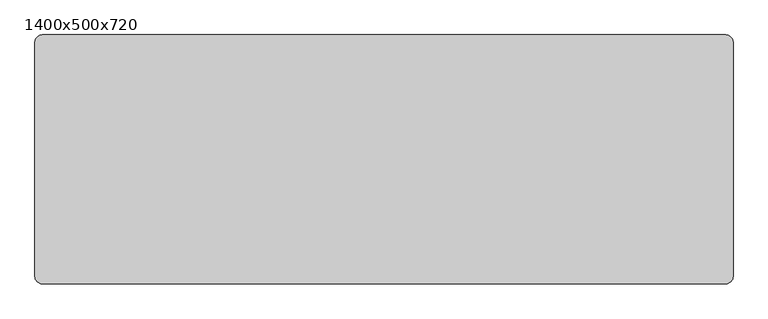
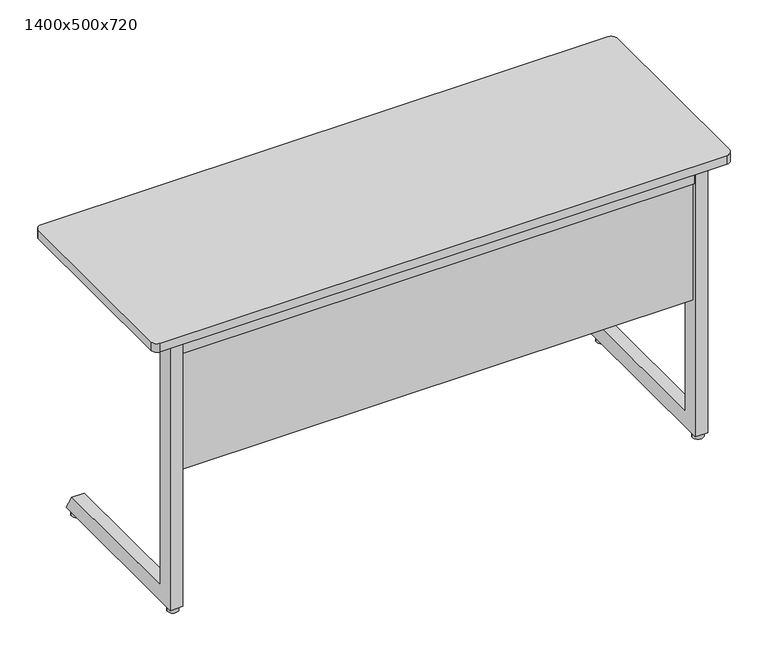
"""IFC4 building model written with IfcOpenShell, lengths in millimetres: furniture geometry, Trivia Light : 1400x500x720."""

from ifc_helpers import new_model, si_unit, point, frame, frame_2d, origin, origin_with_axes, place, context, project, spatial, polyline, circle_curve, trimmed, segment, composite_curve, outline, extrude, source, transform, mapped, element, save


def furniture_1400x500x720_7847da70(model_context):
    return source(origin(), model_context, "Body", "SweptSolid", [
        extrude(outline(polyline([(434.5100173, 698.0), (419.9996059, 666.4981092), (54.0, 666.4977978), (54.0, 698.0), (434.5100173, 698.0)])), frame((-564.7535601, 0.0, 0.0), z_axis=(1.0, 0.0, 0.0), x_axis=(0.0, 1.0, 0.0)), (0.0, 0.0, 1.0), 30.0),
        extrude(outline(polyline([(693.7997437, -567.7502136), (670.730957, -567.7502136), (670.730957, -599.8065042), (675.0394353, -611.6439509), (672.2203574, -612.6700113), (667.730957, -600.3354852), (667.730957, -564.7502136), (693.7997437, -564.7502136), (693.7997437, -567.7502136)])), frame((0.0, 215.0, 0.0), z_axis=(0.0, 1.0, 0.0), x_axis=(0.0, 0.0, 1.0)), (0.0, 0.0, 1.0), 30.0),
        extrude(outline(polyline([(693.7997437, 567.7535601), (693.7997437, 564.7535601), (667.730957, 564.7535601), (667.730957, 600.3388316), (672.2203574, 612.6733577), (675.0394353, 611.6472973), (670.730957, 599.8098507), (670.730957, 567.7535601), (693.7997437, 567.7535601)])), frame((0.0, 215.0, 0.0), z_axis=(0.0, 1.0, 0.0), x_axis=(0.0, 0.0, 1.0)), (0.0, 0.0, 1.0), 30.0),
        extrude(outline(composite_curve([segment(trimmed(circle_curve(frame_2d((-635.0, 35.0)), 13.0), [point((-648.0, 35.0))], [point((-622.0, 35.0))], False, "CARTESIAN"), True, "CONTINUOUS"), segment(trimmed(circle_curve(frame_2d((-635.0, 35.0)), 13.0), [point((-622.0, 35.0))], [point((-648.0, 35.0))], False, "CARTESIAN"), True, "CONTINUOUS")], self_intersect=False)), origin_with_axes(), (0.0, 0.0, 1.0), 13.0905762),
        extrude(outline(composite_curve([segment(trimmed(circle_curve(frame_2d((635.0, 35.0)), 13.0), [point((622.0, 35.0))], [point((648.0, 35.0))], False, "CARTESIAN"), True, "CONTINUOUS"), segment(trimmed(circle_curve(frame_2d((635.0, 35.0)), 13.0), [point((648.0, 35.0))], [point((622.0, 35.0))], False, "CARTESIAN"), True, "CONTINUOUS")], self_intersect=False)), origin_with_axes(), (0.0, 0.0, 1.0), 13.0905762),
        extrude(outline(composite_curve([segment(trimmed(circle_curve(frame_2d((635.0, 437.5)), 13.0), [point((622.0, 437.5))], [point((648.0, 437.5))], False, "CARTESIAN"), True, "CONTINUOUS"), segment(trimmed(circle_curve(frame_2d((635.0, 437.5)), 13.0), [point((648.0, 437.5))], [point((622.0, 437.5))], False, "CARTESIAN"), True, "CONTINUOUS")], self_intersect=False)), origin_with_axes(), (0.0, 0.0, 1.0), 13.0905762),
        extrude(outline(composite_curve([segment(trimmed(circle_curve(frame_2d((-635.0, 437.5)), 13.0), [point((-648.0, 437.5))], [point((-622.0, 437.5))], False, "CARTESIAN"), True, "CONTINUOUS"), segment(trimmed(circle_curve(frame_2d((-635.0, 437.5)), 13.0), [point((-622.0, 437.5))], [point((-648.0, 437.5))], False, "CARTESIAN"), True, "CONTINUOUS")], self_intersect=False)), origin_with_axes(), (0.0, 0.0, 1.0), 13.0905762),
        extrude(outline(polyline([(434.5100173, 698.0), (419.9996059, 666.4981092), (54.0, 666.4977978), (54.0, 698.0), (434.5100173, 698.0)])), frame((534.7535601, 0.0, 0.0), z_axis=(1.0, 0.0, 0.0), x_axis=(0.0, 1.0, 0.0)), (0.0, 0.0, 1.0), 30.0),
        extrude(outline(composite_curve([segment(trimmed(circle_curve(frame_2d((685.0, 485.0)), 15.0), [point((685.0, 500.0))], [point((700.0, 485.0))], False, "CARTESIAN"), True, "CONTINUOUS"), segment(polyline([(700.0, 485.0), (700.0, 15.0)]), True, "CONTINUOUS"), segment(trimmed(circle_curve(frame_2d((685.0, 15.0)), 15.0), [point((700.0, 15.0))], [point((685.0, 0.0))], False, "CARTESIAN"), True, "CONTINUOUS"), segment(polyline([(685.0, 0.0), (-685.0, 0.0)]), True, "CONTINUOUS"), segment(trimmed(circle_curve(frame_2d((-685.0, 15.0)), 15.0), [point((-685.0, 0.0))], [point((-700.0, 15.0))], False, "CARTESIAN"), True, "CONTINUOUS"), segment(polyline([(-700.0, 15.0), (-700.0, 485.0)]), True, "CONTINUOUS"), segment(trimmed(circle_curve(frame_2d((-685.0, 485.0)), 15.0), [point((-700.0, 485.0))], [point((-685.0, 500.0))], False, "CARTESIAN"), True, "CONTINUOUS"), segment(polyline([(-685.0, 500.0), (685.0, 500.0)]), True, "CONTINUOUS")], self_intersect=False)), frame((0.0, 0.0, 698.0), z_axis=(0.0, 0.0, 1.0), x_axis=(1.0, 0.0, 0.0)), (0.0, 0.0, 1.0), 22.0),
        extrude(outline(polyline([(619.7534307, 54.0), (619.7534307, 24.0), (-619.7534307, 24.0), (-619.7534307, 54.0), (619.7534307, 54.0)])), frame((0.0, 0.0, 656.0), z_axis=(0.0, 0.0, 1.0), x_axis=(1.0, 0.0, 0.0)), (0.0, 0.0, 1.0), 42.0),
        extrude(outline(polyline([(62.0, 51.5905762), (432.1448423, 51.5905762), (454.8944033, 11.5905762), (20.0, 11.5905762), (20.0, 698.0), (62.0, 698.0), (62.0, 51.5905762)])), frame((-649.7535601, 0.0, 0.0), z_axis=(1.0, 0.0, 0.0), x_axis=(0.0, 1.0, 0.0)), (0.0, 0.0, 1.0), 30.0001294),
        extrude(outline(polyline([(62.0, 51.5905762), (432.1448423, 51.5905762), (454.8944033, 11.5905762), (20.0, 11.5905762), (20.0, 698.0), (62.0, 698.0), (62.0, 51.5905762)])), frame((619.7534307, 0.0, 0.0), z_axis=(1.0, 0.0, 0.0), x_axis=(0.0, 1.0, 0.0)), (0.0, 0.0, 1.0), 30.0001294),
        extrude(outline(polyline([(619.7534307, 45.9187166), (619.7534307, 27.9321552), (-619.7534307, 27.9321552), (-619.7534307, 45.9187166), (619.7534307, 45.9187166)])), frame((0.0, 0.0, 356.5950628), z_axis=(0.0, 0.0, 1.0), x_axis=(1.0, 0.0, 0.0)), (0.0, 0.0, 1.0), 299.4049372),
    ])


if __name__ == "__main__":
    model = new_model("IFC4")
    model_context = context("Model", 3, world=origin())
    ifc_project = project(units=[si_unit("LENGTHUNIT", "METRE", prefix="MILLI")], contexts=[model_context])
    site = spatial("IfcSite", under=ifc_project)
    building = spatial("IfcBuilding", under=site)
    placement = place(None, origin())
    furniture_1400x500x720_shape = furniture_1400x500x720_7847da70(model_context)
    element("IfcFurniture", 1, ObjectType="Trivia Light : 1400x500x720", at=placement, inside=building, context=model_context, shape_type="MappedRepresentation", body=[
        mapped(furniture_1400x500x720_shape, transform((0.0, 0.0, 0.0), x_axis=(1.0, 0.0, 0.0), y_axis=(0.0, 1.0, 0.0), z_axis=(0.0, 0.0, 1.0))),
    ])
    save(model, "model.ifc")
